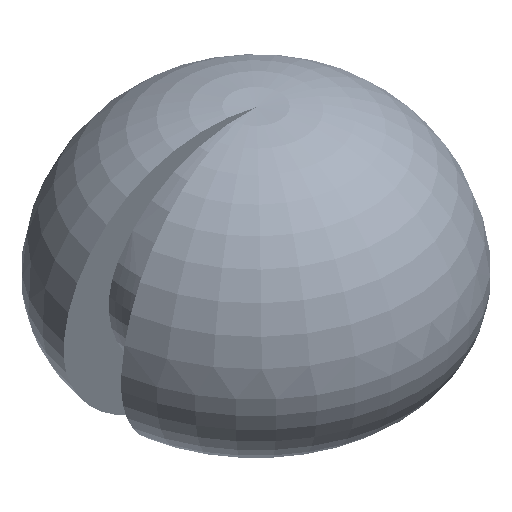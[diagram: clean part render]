
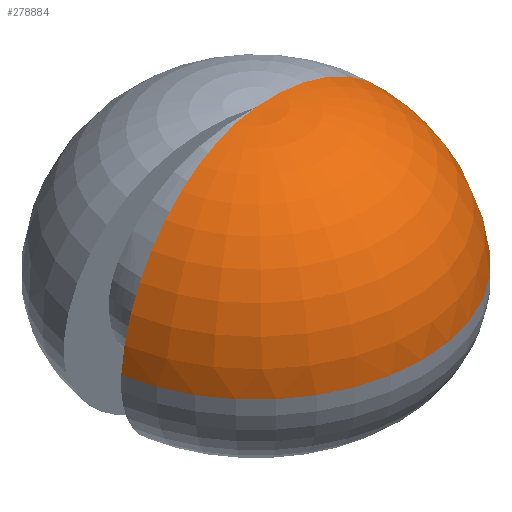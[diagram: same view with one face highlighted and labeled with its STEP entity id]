
A CAD part, isometric view. The second image highlights one B-rep face of the part: STEP entity #278884.
In plain terms, the highlighted toroidal (fillet/blend) face has major radius 320 mm and minor radius 2885.06 mm.
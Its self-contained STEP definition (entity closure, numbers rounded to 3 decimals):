
#5571 = CARTESIAN_POINT ( 'NONE',  ( -3145.553, -554.646, 1031.449 ) ) ;
#13306 = DIRECTION ( 'NONE',  ( 0., 0., -1. ) ) ;
#19815 = EDGE_LOOP ( 'NONE', ( #32308, #93421, #245097 ) ) ;
#32308 = ORIENTED_EDGE ( 'NONE', *, *, #296379, .T. ) ;
#42971 = CIRCLE ( 'NONE', #235585, 2885.057 ) ;
#50693 = CARTESIAN_POINT ( 'NONE',  ( 0., 0., 1031.449 ) ) ;
#55690 = DIRECTION ( 'NONE',  ( 0., 0., 1. ) ) ;
#55804 = DIRECTION ( 'NONE',  ( 0., 0., 1. ) ) ;
#64855 = CARTESIAN_POINT ( 'NONE',  ( 0., 0., 780. ) ) ;
#93421 = ORIENTED_EDGE ( 'NONE', *, *, #291258, .T. ) ;
#95527 = AXIS2_PLACEMENT_3D ( 'NONE', #238320, #214145, #55690 ) ;
#100924 = CIRCLE ( 'NONE', #95527, 2885.057 ) ;
#113123 = DIRECTION ( 'NONE',  ( 1., 0., 0. ) ) ;
#124152 = AXIS2_PLACEMENT_3D ( 'NONE', #50693, #55804, #217664 ) ;
#127670 = CARTESIAN_POINT ( 'NONE',  ( 0., 0., 3647.255 ) ) ;
#146263 = CIRCLE ( 'NONE', #124152, 3194.078 ) ;
#147146 = TOROIDAL_SURFACE ( 'NONE', #163659, 320., 2885.057 ) ;
#163659 = AXIS2_PLACEMENT_3D ( 'NONE', #64855, #269951, #113123 ) ;
#178496 = CARTESIAN_POINT ( 'NONE',  ( 320., 0., 780. ) ) ;
#189926 = CARTESIAN_POINT ( 'NONE',  ( 3194.078, 0., 1031.449 ) ) ;
#214145 = DIRECTION ( 'NONE',  ( 0.174, -0.985, 0. ) ) ;
#217664 = DIRECTION ( 'NONE',  ( 1., 0., 0. ) ) ;
#224785 = VERTEX_POINT ( 'NONE', #5571 ) ;
#235585 = AXIS2_PLACEMENT_3D ( 'NONE', #178496, #252683, #13306 ) ;
#238320 = CARTESIAN_POINT ( 'NONE',  ( -315.138, -55.567, 780. ) ) ;
#245097 = ORIENTED_EDGE ( 'NONE', *, *, #309209, .T. ) ;
#252683 = DIRECTION ( 'NONE',  ( 0., -1., 0. ) ) ;
#269951 = DIRECTION ( 'NONE',  ( 0., 0., 1. ) ) ;
#271822 = VERTEX_POINT ( 'NONE', #127670 ) ;
#278884 = ADVANCED_FACE ( 'NONE', ( #299193 ), #147146, .T. ) ;
#291258 = EDGE_CURVE ( 'NONE', #303387, #271822, #42971, .T. ) ;
#296379 = EDGE_CURVE ( 'NONE', #224785, #303387, #146263, .T. ) ;
#299193 = FACE_OUTER_BOUND ( 'NONE', #19815, .T. ) ;
#303387 = VERTEX_POINT ( 'NONE', #189926 ) ;
#309209 = EDGE_CURVE ( 'NONE', #271822, #224785, #100924, .T. ) ;
